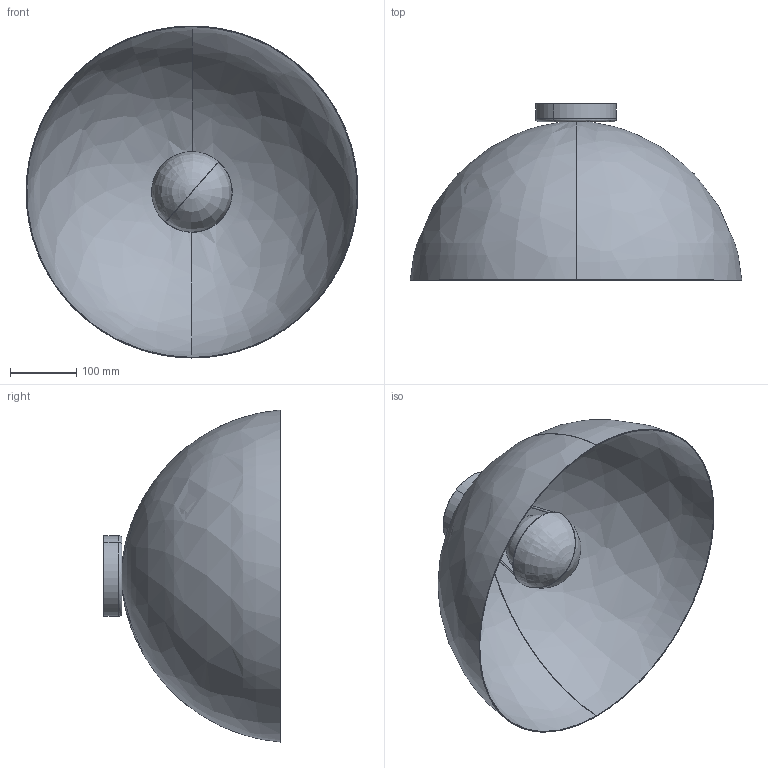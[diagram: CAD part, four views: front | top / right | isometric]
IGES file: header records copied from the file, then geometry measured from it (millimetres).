
Start section: SolidWorks IGES file using analytic representation for surfaces
Global section: file name: E:\3D lampy\Hemisphere\Hemisphera M_plafon\Hemisphera plafon.IGS; native system: SolidWorks 2016; preprocessor: SolidWorks 2016; author: Asia; date: 161021.155247; units: millimetre
Bounding box: 500 x 265.88 x 500 mm (x, y, z)
Surface area: 876008.8 mm2 (no closed solid volume)
Topology: 0 solids, 0 shells, 234 faces, 3882 edges, 3879 vertices
Faces by surface type: bspline 134, revolution 100
